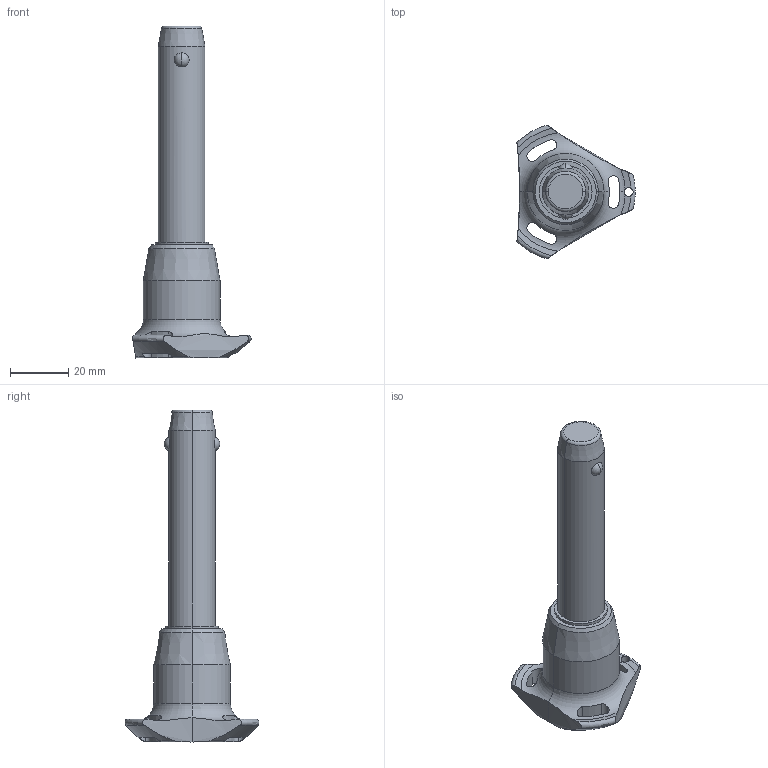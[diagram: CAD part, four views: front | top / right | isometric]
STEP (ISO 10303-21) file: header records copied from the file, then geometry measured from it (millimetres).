
FILE_DESCRIPTION (( 'STEP AP203' ), '1' );
FILE_NAME ('QR1734.M16-060-S.step', '2025-11-12T14:36:00', ( '' ), ( '' ), 'SwSTEP 2.0', 'SolidWorks 2019', '' );
FILE_SCHEMA (( 'CONFIG_CONTROL_DESIGN' ));
Length unit declared in the file: millimetre
Products named in the file (1): QR1734.M16-060-S
Bounding box: 40.5 x 45.88 x 113.7 mm (x, y, z)
Volume: 37160.4 mm3; surface area: 9674.5 mm2
Topology: 1 solids, 1 shells, 65 faces, 178 edges, 113 vertices
Faces by surface type: cylinder 30, cone 14, torus 11, sphere 6, plane 4
Entity records: 2870 total; most frequent: CARTESIAN_POINT 1181, ORIENTED_EDGE 356, DIRECTION 329, EDGE_CURVE 178, AXIS2_PLACEMENT_3D 147, VERTEX_POINT 113, CIRCLE 81, EDGE_LOOP 71
